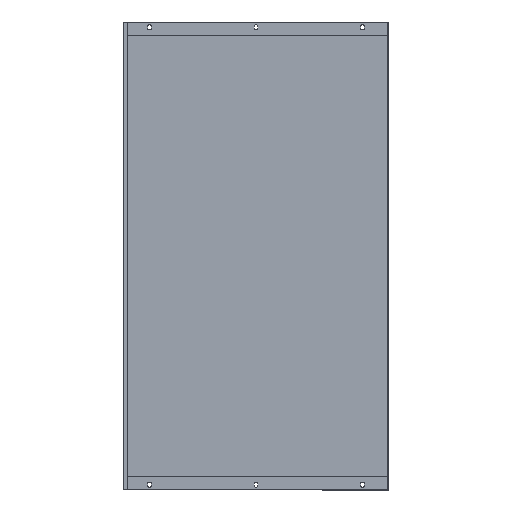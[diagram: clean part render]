
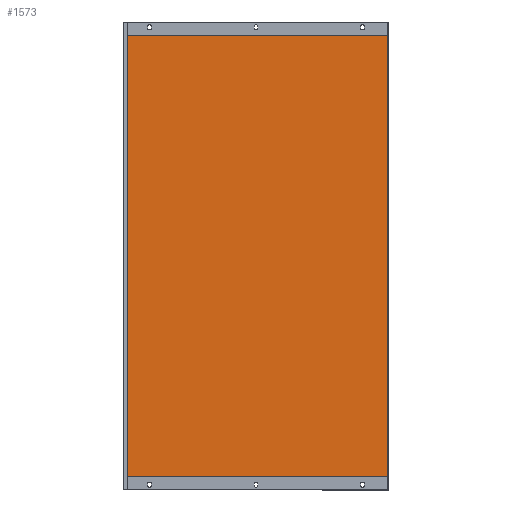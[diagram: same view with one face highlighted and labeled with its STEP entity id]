
A CAD part, front view. The second image highlights one B-rep face of the part: STEP entity #1573.
In plain terms, the highlighted planar face has unit normal (0, -1, 0).
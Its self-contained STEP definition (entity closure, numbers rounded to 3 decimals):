
#40 = VERTEX_POINT ( 'NONE', #1712 ) ;
#43 = DIRECTION ( 'NONE',  ( 0., 1., 0. ) ) ;
#64 = CARTESIAN_POINT ( 'NONE',  ( 0., 61.1, 25. ) ) ;
#106 = VERTEX_POINT ( 'NONE', #237 ) ;
#152 = DIRECTION ( 'NONE',  ( 0., 0., 1. ) ) ;
#182 = DIRECTION ( 'NONE',  ( 0., 0., -1. ) ) ;
#237 = CARTESIAN_POINT ( 'NONE',  ( -6.6, 61.1, 25. ) ) ;
#274 = VECTOR ( 'NONE', #723, 1000. ) ;
#279 = ORIENTED_EDGE ( 'NONE', *, *, #935, .T. ) ;
#310 = FACE_OUTER_BOUND ( 'NONE', #1199, .T. ) ;
#327 = LINE ( 'NONE', #1265, #528 ) ;
#343 = CARTESIAN_POINT ( 'NONE',  ( -6.6, 61.1, 854. ) ) ;
#415 = VECTOR ( 'NONE', #1700, 1000. ) ;
#436 = LINE ( 'NONE', #580, #274 ) ;
#528 = VECTOR ( 'NONE', #182, 1000. ) ;
#580 = CARTESIAN_POINT ( 'NONE',  ( 0., 61.1, 854. ) ) ;
#633 = DIRECTION ( 'NONE',  ( 0., 0., -1. ) ) ;
#639 = VERTEX_POINT ( 'NONE', #1475 ) ;
#677 = ORIENTED_EDGE ( 'NONE', *, *, #1356, .T. ) ;
#723 = DIRECTION ( 'NONE',  ( -1., 0., 0. ) ) ;
#843 = CARTESIAN_POINT ( 'NONE',  ( -8., 61.1, 879. ) ) ;
#861 = ORIENTED_EDGE ( 'NONE', *, *, #959, .F. ) ;
#891 = LINE ( 'NONE', #64, #415 ) ;
#935 = EDGE_CURVE ( 'NONE', #106, #639, #891, .T. ) ;
#959 = EDGE_CURVE ( 'NONE', #40, #639, #327, .T. ) ;
#1199 = EDGE_LOOP ( 'NONE', ( #861, #1760, #677, #279 ) ) ;
#1260 = PLANE ( 'NONE',  #1696 ) ;
#1265 = CARTESIAN_POINT ( 'NONE',  ( 488.6, 61.1, 879. ) ) ;
#1310 = EDGE_CURVE ( 'NONE', #40, #1460, #436, .T. ) ;
#1356 = EDGE_CURVE ( 'NONE', #1460, #106, #1584, .T. ) ;
#1460 = VERTEX_POINT ( 'NONE', #343 ) ;
#1475 = CARTESIAN_POINT ( 'NONE',  ( 488.6, 61.1, 25. ) ) ;
#1513 = VECTOR ( 'NONE', #633, 1000. ) ;
#1569 = CARTESIAN_POINT ( 'NONE',  ( -6.6, 61.1, 879. ) ) ;
#1573 = ADVANCED_FACE ( 'NONE', ( #310 ), #1260, .F. ) ;
#1584 = LINE ( 'NONE', #1569, #1513 ) ;
#1696 = AXIS2_PLACEMENT_3D ( 'NONE', #843, #43, #152 ) ;
#1700 = DIRECTION ( 'NONE',  ( 1., 0., 0. ) ) ;
#1712 = CARTESIAN_POINT ( 'NONE',  ( 488.6, 61.1, 854. ) ) ;
#1760 = ORIENTED_EDGE ( 'NONE', *, *, #1310, .T. ) ;
